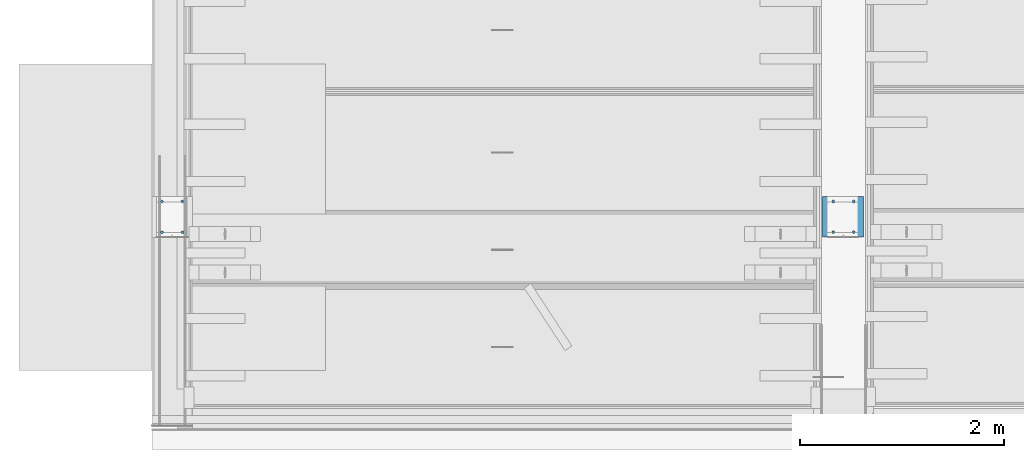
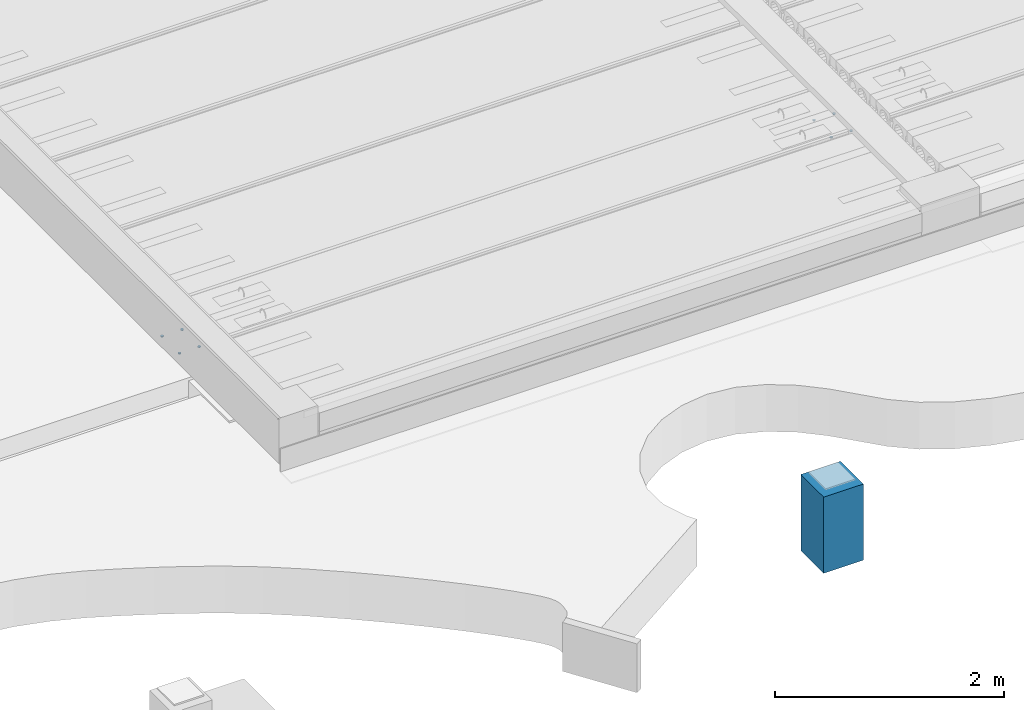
# One storey, part 5 of 230: 9 columns.
"""IFC4X3_ADD2 building model written with IfcOpenShell, lengths in millimetres."""

from ifc_helpers import new_model, si_unit, direction, frame, frame_2d, origin_with_axes, place, context, subcontext, project, spatial, polyline, rectangle, outline, extrude, source, transform, mapped, material, type_object, type_shapes, element, save


model = new_model("IFC4X3_ADD2")

# Units and contexts
model_context = context("Model", 3, precision=1e-05, world=origin_with_axes(), true_north=direction((0.0, 1.0)))
body_context = subcontext(model_context, "Body", "Model", "MODEL_VIEW")
ifc_project = project(units=[si_unit("LENGTHUNIT", "METRE", prefix="MILLI"), si_unit("AREAUNIT", "SQUARE_METRE"), si_unit("VOLUMEUNIT", "CUBIC_METRE"), si_unit("PLANEANGLEUNIT", "RADIAN"), si_unit("TIMEUNIT", "SECOND"), si_unit("MASSUNIT", "GRAM")], contexts=[model_context])

# Site, building, storey
site_placement = place(None, origin_with_axes())
site = spatial("IfcSite", under=ifc_project, at=site_placement, Name="Site", CompositionType="ELEMENT")
building_placement = place(site_placement, origin_with_axes())
building = spatial("IfcBuilding", under=site, at=building_placement, Name="IFC Building Story")
storey_placement = place(building_placement, origin_with_axes())
storey = spatial("IfcBuildingStorey", under=building, at=storey_placement, Name="ETAGE 00 (0)", Elevation=0.0)

# Columns
ifc_material = material(Name="BS_16_Plot en béton armé coulé sur place")
column_type = type_object("IfcColumnType", Name="BS_16_SFO_LE_Colonne rectangulaire_coulé_B.A. 40x40cm1", PredefinedType="NOTDEFINED")
shared_shape = source(origin_with_axes(), body_context, "Body", "SweptSolid", [
    extrude(rectangle(XDim=399.9999999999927, YDim=400.0, at=frame_2d((0.0, 5.95523630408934e-12), x_axis=(1.0, 0.0))), frame((39961.6894781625, -12385.0000000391, -800.0), z_axis=(0.0, 0.0, 1.0), x_axis=(1.0, 0.0, 0.0)), (0.0, 0.0, 1.0), 810.000000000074),
])
type_shapes(column_type, [shared_shape])
column_1_placement = place(storey_placement, origin_with_axes())
element("IfcColumn", 1, at=column_1_placement, inside=storey, type_object=column_type, material=ifc_material, Name="BS_16_SFO_LE_Colonne rectangulaire_coulé:B.A. 40x40cm", ObjectType="B.A. 40x40cm", context=body_context, shape_type="MappedRepresentation", body=[
    mapped(shared_shape, transform((0.0, 0.0, 0.0))),
])
column_2_placement = place(storey_placement, frame((33285.12546928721, -12544.5619489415, 3770.0), z_axis=(0.0, 0.0, 1.0), x_axis=(0.9659258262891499, -0.258819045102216, 0.0)))
element("IfcColumn", 2, at=column_2_placement, inside=storey, Name="ZW9", ObjectType="D28", context=body_context, shape_type="SweptSolid", body=[
    extrude(outline(polyline([(-3.623466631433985, 13.52296156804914), (3.623466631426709, 13.52296156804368), (9.899494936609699, 9.899494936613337), (13.52296156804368, 3.623466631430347), (13.52296156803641, -3.623466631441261), (9.899494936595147, -9.899494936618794), (3.623466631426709, -13.52296156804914), (-3.623466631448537, -13.52296156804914), (-9.899494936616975, -9.899494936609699), (-13.52296156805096, -3.623466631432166), (-13.52296156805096, 3.623466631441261), (-9.899494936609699, 9.899494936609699), (-3.623466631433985, 13.52296156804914)])), frame((13.52296156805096, 13.52296156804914, 0.0), z_axis=(0.0, 0.0, 1.0), x_axis=(1.0, 0.0, 0.0)), (0.0, 0.0, 1.0), 10.0),
])
column_3_placement = place(storey_placement, frame((33501.68764711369, -12554.12412676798, 3770.0), z_axis=(0.0, 0.0, 1.0), x_axis=(0.7071067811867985, 0.7071067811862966, 0.0)))
element("IfcColumn", 3, at=column_3_placement, inside=storey, Name="ZW9", ObjectType="D28", context=body_context, shape_type="SweptSolid", body=[
    extrude(outline(polyline([(9.899494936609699, 9.899494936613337), (13.52296156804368, 3.623466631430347), (13.52296156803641, -3.623466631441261), (9.899494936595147, -9.899494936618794), (3.623466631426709, -13.52296156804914), (-3.623466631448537, -13.52296156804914), (-9.899494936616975, -9.899494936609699), (-13.52296156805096, -3.623466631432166), (-13.52296156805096, 3.623466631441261), (-9.899494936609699, 9.899494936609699), (-3.623466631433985, 13.52296156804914), (3.623466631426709, 13.52296156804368), (9.899494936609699, 9.899494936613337)])), frame((13.52296156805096, 13.52296156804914, 0.0), z_axis=(0.0, 0.0, 1.0), x_axis=(1.0, 0.0, 0.0)), (0.0, 0.0, 1.0), 10.0),
])
column_4_placement = place(storey_placement, frame((33292.12546928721, -12218.43759328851, 3770.0), z_axis=(0.0, 0.0, 1.0), x_axis=(-0.2588190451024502, -0.9659258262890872, 0.0)))
element("IfcColumn", 4, at=column_4_placement, inside=storey, Name="ZW9", ObjectType="D28", context=body_context, shape_type="SweptSolid", body=[
    extrude(outline(polyline([(-13.52296156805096, -3.623466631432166), (-13.52296156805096, 3.623466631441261), (-9.899494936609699, 9.899494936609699), (-3.623466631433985, 13.52296156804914), (3.623466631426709, 13.52296156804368), (9.899494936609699, 9.899494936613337), (13.52296156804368, 3.623466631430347), (13.52296156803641, -3.623466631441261), (9.899494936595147, -9.899494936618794), (3.623466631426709, -13.52296156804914), (-3.623466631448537, -13.52296156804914), (-9.899494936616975, -9.899494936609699), (-13.52296156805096, -3.623466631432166)])), frame((13.52296156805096, 13.52296156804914, 0.0), z_axis=(0.0, 0.0, 1.0), x_axis=(1.0, 0.0, 0.0)), (0.0, 0.0, 1.0), 10.0),
])
column_5_placement = place(storey_placement, frame((33501.68764711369, -12254.12412676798, 3770.0), z_axis=(0.0, 0.0, 1.0), x_axis=(0.7071067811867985, 0.7071067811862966, 0.0)))
element("IfcColumn", 5, at=column_5_placement, inside=storey, Name="ZW9", ObjectType="D28", context=body_context, shape_type="SweptSolid", body=[
    extrude(outline(polyline([(9.899494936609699, 9.899494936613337), (13.52296156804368, 3.623466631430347), (13.52296156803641, -3.623466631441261), (9.899494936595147, -9.899494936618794), (3.623466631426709, -13.52296156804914), (-3.623466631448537, -13.52296156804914), (-9.899494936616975, -9.899494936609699), (-13.52296156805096, -3.623466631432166), (-13.52296156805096, 3.623466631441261), (-9.899494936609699, 9.899494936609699), (-3.623466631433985, 13.52296156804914), (3.623466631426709, 13.52296156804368), (9.899494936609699, 9.899494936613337)])), frame((13.52296156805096, 13.52296156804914, 0.0), z_axis=(0.0, 0.0, 1.0), x_axis=(1.0, 0.0, 0.0)), (0.0, 0.0, 1.0), 10.0),
])
column_6_placement = place(storey_placement, frame((39847.56329146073, -12534.999771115, 3770.0), z_axis=(0.0, 0.0, 1.0), x_axis=(0.7071067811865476, -0.7071067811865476, 0.0)))
element("IfcColumn", 6, at=column_6_placement, inside=storey, Name="ZW9", ObjectType="D28", context=body_context, shape_type="SweptSolid", body=[
    extrude(outline(polyline([(-9.899494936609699, 9.899494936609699), (-3.623466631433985, 13.52296156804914), (3.623466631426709, 13.52296156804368), (9.899494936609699, 9.899494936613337), (13.52296156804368, 3.623466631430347), (13.52296156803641, -3.623466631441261), (9.899494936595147, -9.899494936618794), (3.623466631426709, -13.52296156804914), (-3.623466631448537, -13.52296156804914), (-9.899494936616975, -9.899494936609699), (-13.52296156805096, -3.623466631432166), (-13.52296156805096, 3.623466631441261), (-9.899494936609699, 9.899494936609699)])), frame((13.52296156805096, 13.52296156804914, 0.0), z_axis=(0.0, 0.0, 1.0), x_axis=(1.0, 0.0, 0.0)), (0.0, 0.0, 1.0), 10.0),
])
column_7_placement = place(storey_placement, frame((40066.68764711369, -12554.12412676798, 3770.0), z_axis=(0.0, 0.0, 1.0), x_axis=(0.7071067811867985, 0.7071067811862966, 0.0)))
element("IfcColumn", 7, at=column_7_placement, inside=storey, Name="ZW9", ObjectType="D28", context=body_context, shape_type="SweptSolid", body=[
    extrude(outline(polyline([(9.899494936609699, 9.899494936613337), (13.52296156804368, 3.623466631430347), (13.52296156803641, -3.623466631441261), (9.899494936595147, -9.899494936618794), (3.623466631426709, -13.52296156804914), (-3.623466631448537, -13.52296156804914), (-9.899494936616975, -9.899494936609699), (-13.52296156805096, -3.623466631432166), (-13.52296156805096, 3.623466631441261), (-9.899494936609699, 9.899494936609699), (-3.623466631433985, 13.52296156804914), (3.623466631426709, 13.52296156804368), (9.899494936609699, 9.899494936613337)])), frame((13.52296156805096, 13.52296156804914, 0.0), z_axis=(0.0, 0.0, 1.0), x_axis=(1.0, 0.0, 0.0)), (0.0, 0.0, 1.0), 10.0),
])
column_8_placement = place(storey_placement, frame((39850.12546928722, -12225.43759328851, 3770.0), z_axis=(0.0, 0.0, 1.0), x_axis=(0.2588190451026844, -0.9659258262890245, 0.0)))
element("IfcColumn", 8, at=column_8_placement, inside=storey, Name="ZW9", ObjectType="D28", context=body_context, shape_type="SweptSolid", body=[
    extrude(outline(polyline([(-13.52296156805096, 3.623466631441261), (-9.899494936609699, 9.899494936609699), (-3.623466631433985, 13.52296156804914), (3.623466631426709, 13.52296156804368), (9.899494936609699, 9.899494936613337), (13.52296156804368, 3.623466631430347), (13.52296156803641, -3.623466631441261), (9.899494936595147, -9.899494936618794), (3.623466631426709, -13.52296156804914), (-3.623466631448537, -13.52296156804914), (-9.899494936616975, -9.899494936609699), (-13.52296156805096, -3.623466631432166), (-13.52296156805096, 3.623466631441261)])), frame((13.52296156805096, 13.52296156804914, 0.0), z_axis=(0.0, 0.0, 1.0), x_axis=(1.0, 0.0, 0.0)), (0.0, 0.0, 1.0), 10.0),
])
column_9_placement = place(storey_placement, frame((40066.68764711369, -12254.12412676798, 3770.0), z_axis=(0.0, 0.0, 1.0), x_axis=(0.7071067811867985, 0.7071067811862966, 0.0)))
element("IfcColumn", 9, at=column_9_placement, inside=storey, Name="ZW9", ObjectType="D28", context=body_context, shape_type="SweptSolid", body=[
    extrude(outline(polyline([(9.899494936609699, 9.899494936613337), (13.52296156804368, 3.623466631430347), (13.52296156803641, -3.623466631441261), (9.899494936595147, -9.899494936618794), (3.623466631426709, -13.52296156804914), (-3.623466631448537, -13.52296156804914), (-9.899494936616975, -9.899494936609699), (-13.52296156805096, -3.623466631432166), (-13.52296156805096, 3.623466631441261), (-9.899494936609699, 9.899494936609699), (-3.623466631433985, 13.52296156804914), (3.623466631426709, 13.52296156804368), (9.899494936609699, 9.899494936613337)])), frame((13.52296156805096, 13.52296156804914, 0.0), z_axis=(0.0, 0.0, 1.0), x_axis=(1.0, 0.0, 0.0)), (0.0, 0.0, 1.0), 10.0),
])

save(model, "model.ifc")
